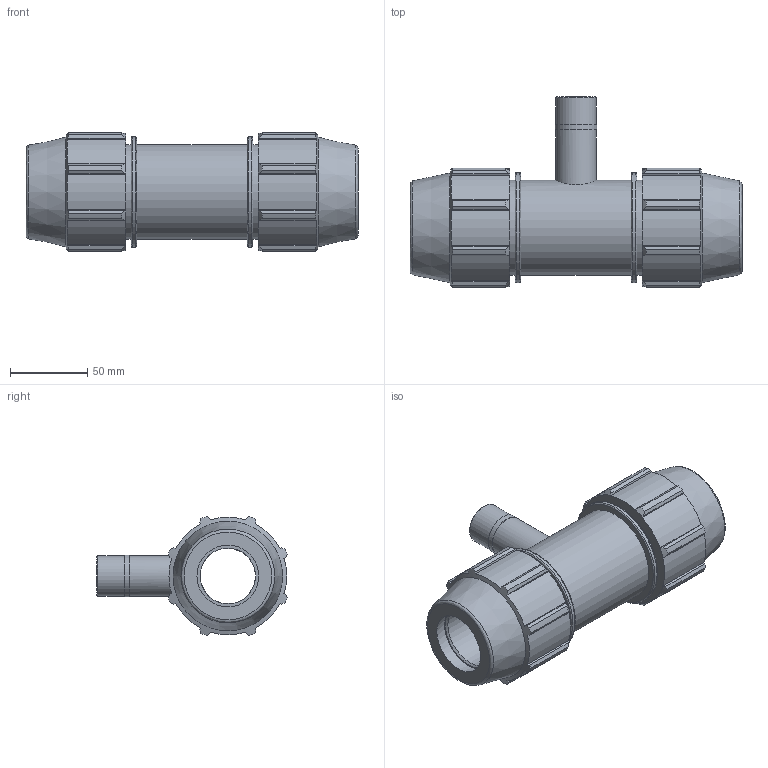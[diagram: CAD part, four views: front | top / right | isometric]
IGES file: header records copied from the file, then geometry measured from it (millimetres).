
Global section: file name: 078100040007_188100040007_0781060400070A.ipt; native system: Autodesk Inventor 2015; preprocessor: unknown; author: Кирилл,,11,0; organization: 20170224.180708; date: 20170606.172408; units: millimetre
Bounding box: 215 x 123.58 x 77.16 mm (x, y, z)
Volume: 547994.5 mm3; surface area: 95455.5 mm2
Topology: 1 solids, 1 shells, 154 faces, 433 edges, 293 vertices
Faces by surface type: plane 79, cylinder 40, cone 21, revolution 14
Full cylindrical faces by diameter (mm): 26.441 x2, 26.97 x1, 61.5 x3, 71.34 x2
